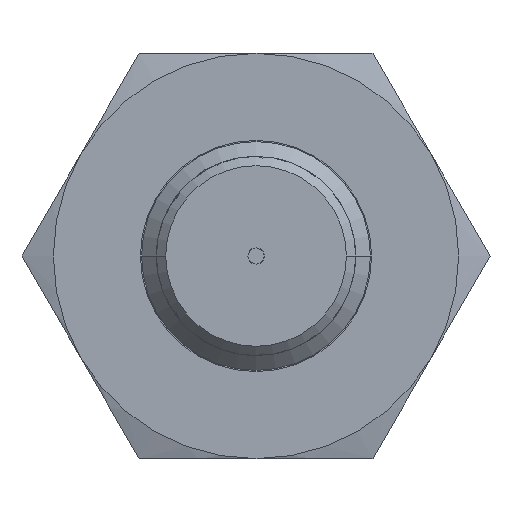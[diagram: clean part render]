
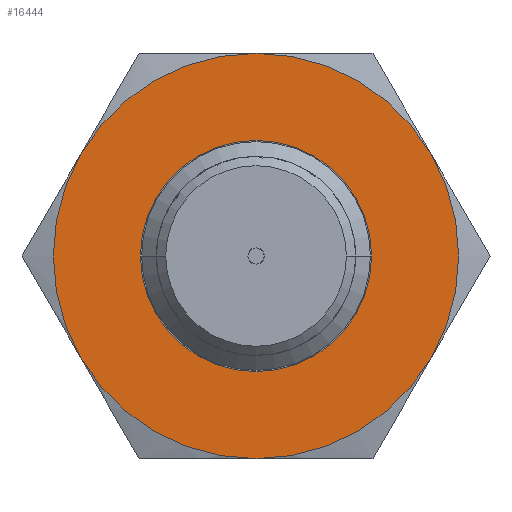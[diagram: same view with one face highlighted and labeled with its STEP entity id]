
A CAD part, left-side view. The second image highlights one B-rep face of the part: STEP entity #16444.
In plain terms, the highlighted free-form (B-spline) face has degree [1, 1] with [2, 2] control points.
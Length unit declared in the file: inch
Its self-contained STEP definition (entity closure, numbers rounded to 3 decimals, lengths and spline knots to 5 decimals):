
#3986=CARTESIAN_POINT('',(-0.2475,0.0,-0.4375));
#3987=VERTEX_POINT('',#3986);
#4021=CARTESIAN_POINT('',(-0.2475,0.,0.4375));
#4022=VERTEX_POINT('',#4021);
#4029=CARTESIAN_POINT('',(-0.2475,0.0,0.0));
#4030=DIRECTION('',(-1.0,0.0,0.0));
#4031=DIRECTION('',(0.0,0.0,-1.0));
#4032=AXIS2_PLACEMENT_3D('',#4029,#4030,#4031);
#4033=CIRCLE('',#4032,0.4375);
#4034=EDGE_CURVE('',#3987,#4022,#4033,.T.);
#4615=CARTESIAN_POINT('',(-0.2475,0.2495,0.0));
#4616=VERTEX_POINT('',#4615);
#4625=CARTESIAN_POINT('',(-0.2475,-0.2495,0.));
#4626=VERTEX_POINT('',#4625);
#4627=CARTESIAN_POINT('',(-0.2475,0.0,0.0));
#4628=DIRECTION('',(-1.0,0.0,0.0));
#4629=DIRECTION('',(0.0,1.0,0.0));
#4630=AXIS2_PLACEMENT_3D('',#4627,#4628,#4629);
#4631=CIRCLE('',#4630,0.2495);
#4632=EDGE_CURVE('',#4616,#4626,#4631,.T.);
#15075=CARTESIAN_POINT('',(-0.2475,0.0,0.0));
#15076=DIRECTION('',(-1.0,0.0,0.0));
#15077=DIRECTION('',(0.0,1.0,0.0));
#15078=AXIS2_PLACEMENT_3D('',#15075,#15076,#15077);
#15079=CIRCLE('',#15078,0.2495);
#15080=EDGE_CURVE('',#4626,#4616,#15079,.T.);
#16417=CARTESIAN_POINT('',(-0.2475,0.0,0.0));
#16418=DIRECTION('',(-1.0,0.0,0.0));
#16419=DIRECTION('',(0.0,0.0,-1.0));
#16420=AXIS2_PLACEMENT_3D('',#16417,#16418,#16419);
#16421=CIRCLE('',#16420,0.4375);
#16422=EDGE_CURVE('',#4022,#3987,#16421,.T.);
#16431=CARTESIAN_POINT('',(-0.2475,0.4375,0.4375));
#16432=CARTESIAN_POINT('',(-0.2475,0.4375,-0.4375));
#16433=CARTESIAN_POINT('',(-0.2475,-0.4375,0.4375));
#16434=CARTESIAN_POINT('',(-0.2475,-0.4375,-0.4375));
#16435=B_SPLINE_SURFACE_WITH_KNOTS('',1,1,((#16431,#16433),(#16432,#16434)),.UNSPECIFIED.,.F.,.F.,.U.,(2,2),(2,2),(0.0,0.875),(0.0,0.875),.UNSPECIFIED.);
#16436=ORIENTED_EDGE('',*,*,#4034,.T.);
#16437=ORIENTED_EDGE('',*,*,#16422,.T.);
#16438=EDGE_LOOP('',(#16436,#16437));
#16439=FACE_OUTER_BOUND('',#16438,.T.);
#16440=ORIENTED_EDGE('',*,*,#4632,.F.);
#16441=ORIENTED_EDGE('',*,*,#15080,.F.);
#16442=EDGE_LOOP('',(#16440,#16441));
#16443=FACE_BOUND('',#16442,.T.);
#16444=ADVANCED_FACE('',(#16439,#16443),#16435,.T.);
